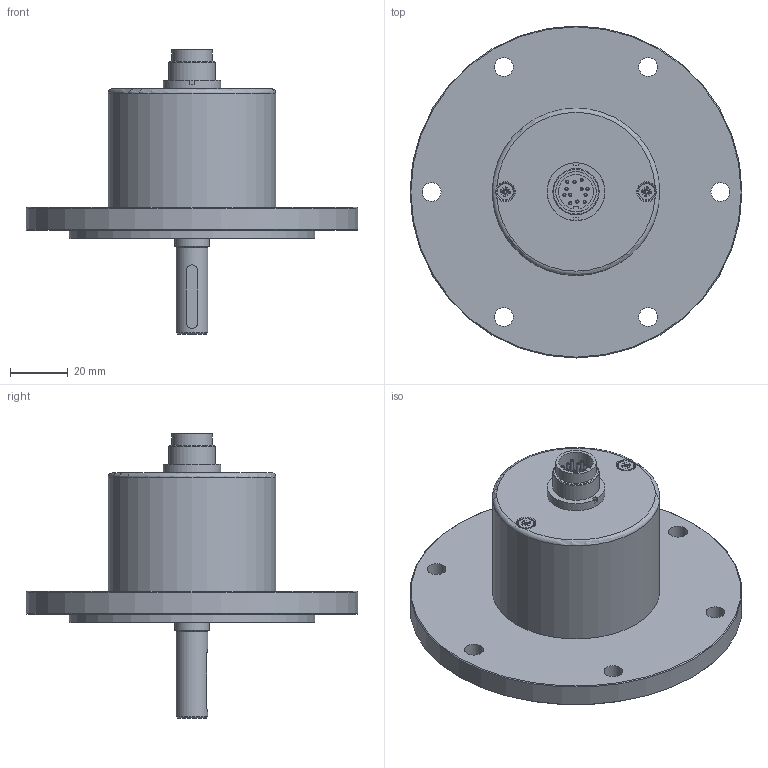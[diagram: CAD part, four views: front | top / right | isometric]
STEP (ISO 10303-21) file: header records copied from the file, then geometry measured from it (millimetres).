
FILE_DESCRIPTION((''),'2;1');
FILE_NAME('V:\WDG-Artikel\1\115MxxxxSI12\04_Mechan_Konstruktionsunterlagen\115MxxxxSI12.stp','2013-01-23T13:40:54',('TP'),(''),'Autodesk Inventor 2008','Autodesk Inventor 2008','');
FILE_SCHEMA(('AUTOMOTIVE_DESIGN { 1 0 10303 214 1 1 1 1 }'));
Length unit declared in the file: millimetre
Products named in the file (1): Bauteil3
Bounding box: 115 x 115 x 98.5 mm (x, y, z)
Volume: 148419.6 mm3; surface area: 58318 mm2
Topology: 2 solids, 7 shells, 376 faces, 825 edges, 507 vertices
Faces by surface type: plane 104, cylinder 71, cone 69, bspline 61, torus 41, sphere 30
Full cylindrical faces by diameter (mm): 1.1 x12, 2.693 x2, 3 x2, 5.5 x2, 11 x1, 11.6 x1, 12 x3, 12.7 x1, 13.5 x1, 14 x1, 14.5 x1, 16 x2, 17 x6, 18 x1, 20 x2, 23.4 x4, 24.8 x8, 25 x1, 27.85 x1, 28 x1, 53.5 x1, 56 x2, 56.05 x1, 58 x1, 85 x1, 115 x1
Entity records: 13783 total; most frequent: CARTESIAN_POINT 6169, DIRECTION 1564, ORIENTED_EDGE 1222, AXIS2_PLACEMENT_3D 735, EDGE_CURVE 611, EDGE_LOOP 608, VERTEX_POINT 455, CIRCLE 417
